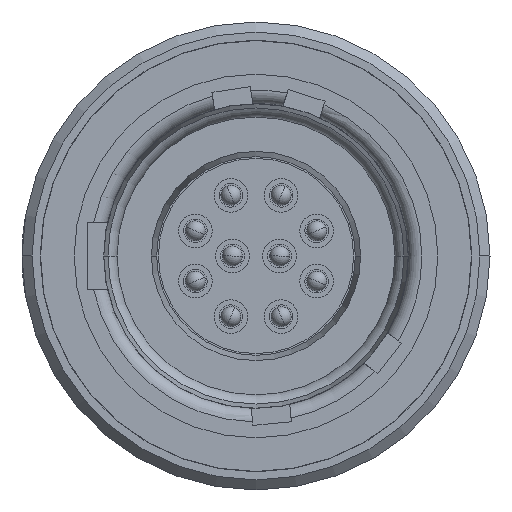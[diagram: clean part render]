
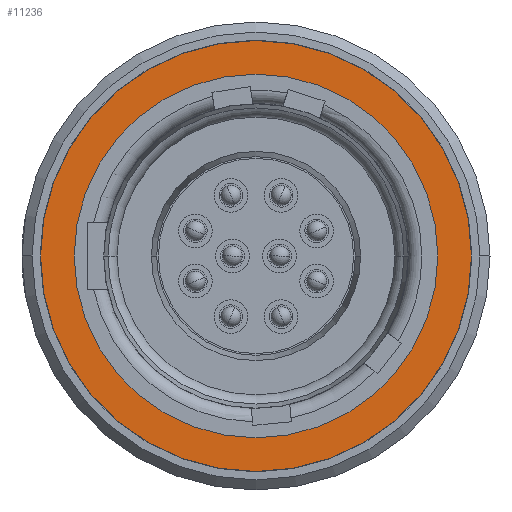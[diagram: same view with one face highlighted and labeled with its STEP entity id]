
A CAD part, left-side view. The second image highlights one B-rep face of the part: STEP entity #11236.
In plain terms, the highlighted planar face has unit normal (-1, 0, 0).
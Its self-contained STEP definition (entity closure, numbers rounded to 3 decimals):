
#414=CARTESIAN_POINT('',(-8.01,0.,0.));
#415=DIRECTION('',(1.,0.,0.));
#416=DIRECTION('',(0.,1.,0.));
#417=AXIS2_PLACEMENT_3D('',#414,#415,#416);
#419=CARTESIAN_POINT('',(-8.01,0.,0.));
#420=DIRECTION('',(1.,0.,0.));
#421=DIRECTION('',(0.,-1.,0.));
#422=AXIS2_PLACEMENT_3D('',#419,#420,#421);
#424=CARTESIAN_POINT('',(-8.01,0.,0.));
#425=DIRECTION('',(-1.,0.,0.));
#426=DIRECTION('',(0.,1.,0.));
#427=AXIS2_PLACEMENT_3D('',#424,#425,#426);
#429=CARTESIAN_POINT('',(-8.01,0.,0.));
#430=DIRECTION('',(-1.,0.,0.));
#431=DIRECTION('',(0.,-1.,0.));
#432=AXIS2_PLACEMENT_3D('',#429,#430,#431);
#8973=CARTESIAN_POINT('',(-8.01,5.4,0.));
#8974=VERTEX_POINT('',#8973);
#8975=CARTESIAN_POINT('',(-8.01,-5.4,0.));
#8976=VERTEX_POINT('',#8975);
#8977=CARTESIAN_POINT('',(-8.01,6.4,0.));
#8978=CARTESIAN_POINT('',(-8.01,-6.4,0.));
#8979=VERTEX_POINT('',#8977);
#8980=VERTEX_POINT('',#8978);
#11221=CARTESIAN_POINT('',(-8.01,0.,0.));
#11222=DIRECTION('',(-1.,0.,0.));
#11223=DIRECTION('',(0.,1.,0.));
#11224=AXIS2_PLACEMENT_3D('',#11221,#11222,#11223);
#11225=PLANE('',#11224);
#11227=ORIENTED_EDGE('',*,*,#11226,.T.);
#11229=ORIENTED_EDGE('',*,*,#11228,.T.);
#11230=EDGE_LOOP('',(#11227,#11229));
#11231=FACE_OUTER_BOUND('',#11230,.F.);
#11232=ORIENTED_EDGE('',*,*,#11208,.T.);
#11233=ORIENTED_EDGE('',*,*,#11187,.T.);
#11234=EDGE_LOOP('',(#11232,#11233));
#11235=FACE_BOUND('',#11234,.F.);
#418=CIRCLE('',#417,6.4);
#423=CIRCLE('',#422,6.4);
#428=CIRCLE('',#427,5.4);
#433=CIRCLE('',#432,5.4);
#11187=EDGE_CURVE('',#8976,#8974,#433,.T.);
#11208=EDGE_CURVE('',#8974,#8976,#428,.T.);
#11226=EDGE_CURVE('',#8979,#8980,#418,.T.);
#11228=EDGE_CURVE('',#8980,#8979,#423,.T.);
#11236=ADVANCED_FACE('',(#11231,#11235),#11225,.T.);
